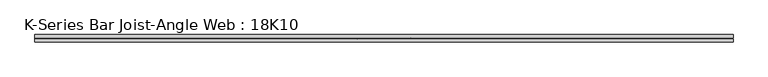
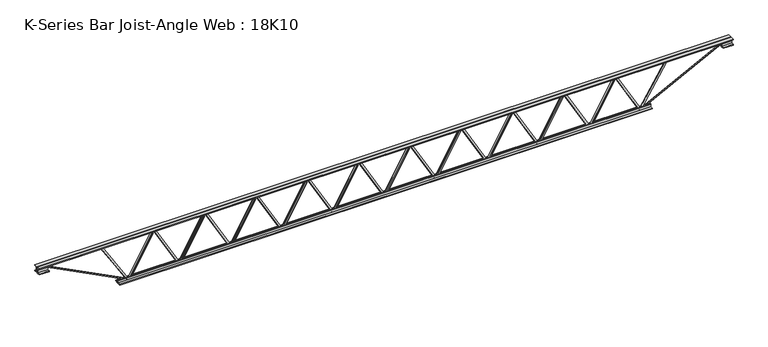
"""IFC4 building model written with IfcOpenShell, lengths in millimetres: beam geometry, K-Series Bar Joist-Angle Web : 18K10."""

from ifc_helpers import new_model, si_unit, frame, origin, place, context, project, spatial, polyline, outline, extrude, faceted_brep, source, transform, mapped, element, save


def k_series_bar_joist_angle_web_18k10_cff3a947(model_context):
    return source(origin(), model_context, "Body", "SolidModel", [
        extrude(outline(polyline([(-4.75, 4.7625), (-4.75, 0.0), (-17.45, 0.0), (-17.45, 4.7625), (-4.75, 4.7625)])), frame((2037.4126416, 0.0, -190.4), z_axis=(-0.49510883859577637, 0.0, 0.8688309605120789), x_axis=(0.0, -1.0, 0.0)), (0.0, 0.0, 1.0), 438.2900901),
        extrude(outline(polyline([(-225.325, 2069.2), (-206.275, 2069.2), (-206.275, 2068.3851254), (225.325, 1822.4351254), (225.325, 1804.2), (206.275, 1804.2), (206.275, 1811.3648746), (-225.325, 2057.3148746), (-225.325, 2069.2)])), frame((0.0, 0.0, 0.0), z_axis=(0.0, 1.0, 0.0), x_axis=(0.0, 0.0, 1.0)), (0.0, 0.0, 1.0), 4.75),
        faceted_brep([(1551.9, 0.0, -206.275), (1551.9, 0.0, -225.325), (1551.9, -4.75, -225.325), (1551.9, -4.75, -206.275), (1552.7148746, 0.0, -206.275), (1798.6648746, 0.0, 225.325), (1816.9, 0.0, 225.325), (1816.9, 0.0, 206.275), (1809.7351254, 0.0, 206.275), (1563.7851254, 0.0, -225.325), (1563.7851254, -4.75, -225.325), (1583.6873584, -4.75, -190.4), (1579.5495509, -4.75, -188.0420442), (1796.5508484, -4.75, 192.7579558), (1800.6886559, -4.75, 190.4), (1809.7351254, -4.75, 206.275), (1816.9, -4.75, 206.275), (1816.9, -4.75, 225.325), (1798.6648746, -4.75, 225.325), (1552.7148746, -4.75, -206.275), (1800.6886559, -17.4625, 190.4), (1583.6873584, -17.4625, -190.4), (1579.5495509, -17.4625, -188.0420442), (1796.5508484, -17.4625, 192.7579558)], [[[0, 1, 2, 3]], [[1, 0, 4, 5, 6, 7, 8, 9]], [[2, 1, 9, 10]], [[3, 2, 10, 11, 12, 13, 14, 15, 16, 17, 18, 19]], [[0, 3, 19, 4]], [[9, 8, 15, 14, 20, 21, 11, 10]], [[5, 4, 19, 18]], [[7, 6, 17, 16]], [[8, 7, 16, 15]], [[6, 5, 18, 17]], [[21, 22, 12, 11]], [[20, 14, 13, 23]], [[22, 21, 20, 23]], [[12, 22, 23, 13]]]),
        extrude(outline(polyline([(-4.75, 4.7625), (-4.75, 0.0), (-17.45, 0.0), (-17.45, 4.7625), (-4.75, 4.7625)])), frame((1520.1126416, 0.0, -190.4), z_axis=(-0.49510883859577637, 0.0, 0.8688309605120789), x_axis=(0.0, -1.0, 0.0)), (0.0, 0.0, 1.0), 438.2900901),
        extrude(outline(polyline([(-225.325, 1551.9), (-206.275, 1551.9), (-206.275, 1551.0851254), (225.325, 1305.1351254), (225.325, 1286.9), (206.275, 1286.9), (206.275, 1294.0648746), (-225.325, 1540.0148746), (-225.325, 1551.9)])), frame((0.0, 0.0, 0.0), z_axis=(0.0, 1.0, 0.0), x_axis=(0.0, 0.0, 1.0)), (0.0, 0.0, 1.0), 4.75),
        faceted_brep([(1034.6, 0.0, -206.275), (1034.6, 0.0, -225.325), (1034.6, -4.75, -225.325), (1034.6, -4.75, -206.275), (1035.4148746, 0.0, -206.275), (1281.3648746, 0.0, 225.325), (1299.6, 0.0, 225.325), (1299.6, 0.0, 206.275), (1292.4351254, 0.0, 206.275), (1046.4851254, 0.0, -225.325), (1046.4851254, -4.75, -225.325), (1066.3873584, -4.75, -190.4), (1062.2495509, -4.75, -188.0420442), (1279.2508484, -4.75, 192.7579558), (1283.3886559, -4.75, 190.4), (1292.4351254, -4.75, 206.275), (1299.6, -4.75, 206.275), (1299.6, -4.75, 225.325), (1281.3648746, -4.75, 225.325), (1035.4148746, -4.75, -206.275), (1283.3886559, -17.4625, 190.4), (1066.3873584, -17.4625, -190.4), (1062.2495509, -17.4625, -188.0420442), (1279.2508484, -17.4625, 192.7579558)], [[[0, 1, 2, 3]], [[1, 0, 4, 5, 6, 7, 8, 9]], [[2, 1, 9, 10]], [[3, 2, 10, 11, 12, 13, 14, 15, 16, 17, 18, 19]], [[0, 3, 19, 4]], [[9, 8, 15, 14, 20, 21, 11, 10]], [[5, 4, 19, 18]], [[7, 6, 17, 16]], [[8, 7, 16, 15]], [[6, 5, 18, 17]], [[21, 22, 12, 11]], [[20, 14, 13, 23]], [[22, 21, 20, 23]], [[12, 22, 23, 13]]]),
        extrude(outline(polyline([(-4.75, 4.7625), (-4.75, 0.0), (-17.45, 0.0), (-17.45, 4.7625), (-4.75, 4.7625)])), frame((1002.8126416, 0.0, -190.4), z_axis=(-0.49510883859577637, 0.0, 0.8688309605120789), x_axis=(0.0, -1.0, 0.0)), (0.0, 0.0, 1.0), 438.2900901),
        extrude(outline(polyline([(-225.325, 1034.6), (-206.275, 1034.6), (-206.275, 1033.7851254), (225.325, 787.8351254), (225.325, 769.6), (206.275, 769.6), (206.275, 776.7648746), (-225.325, 1022.7148746), (-225.325, 1034.6)])), frame((0.0, 0.0, 0.0), z_axis=(0.0, 1.0, 0.0), x_axis=(0.0, 0.0, 1.0)), (0.0, 0.0, 1.0), 4.75),
        faceted_brep([(517.3, 0.0, -206.275), (517.3, 0.0, -225.325), (517.3, -4.75, -225.325), (517.3, -4.75, -206.275), (518.1148746, 0.0, -206.275), (764.0648746, 0.0, 225.325), (782.3, 0.0, 225.325), (782.3, 0.0, 206.275), (775.1351254, 0.0, 206.275), (529.1851254, 0.0, -225.325), (529.1851254, -4.75, -225.325), (549.0873584, -4.75, -190.4), (544.9495509, -4.75, -188.0420442), (761.9508484, -4.75, 192.7579558), (766.0886559, -4.75, 190.4), (775.1351254, -4.75, 206.275), (782.3, -4.75, 206.275), (782.3, -4.75, 225.325), (764.0648746, -4.75, 225.325), (518.1148746, -4.75, -206.275), (766.0886559, -17.4625, 190.4), (549.0873584, -17.4625, -190.4), (544.9495509, -17.4625, -188.0420442), (761.9508484, -17.4625, 192.7579558)], [[[0, 1, 2, 3]], [[1, 0, 4, 5, 6, 7, 8, 9]], [[2, 1, 9, 10]], [[3, 2, 10, 11, 12, 13, 14, 15, 16, 17, 18, 19]], [[0, 3, 19, 4]], [[9, 8, 15, 14, 20, 21, 11, 10]], [[5, 4, 19, 18]], [[7, 6, 17, 16]], [[8, 7, 16, 15]], [[6, 5, 18, 17]], [[21, 22, 12, 11]], [[20, 14, 13, 23]], [[22, 21, 20, 23]], [[12, 22, 23, 13]]]),
        extrude(outline(polyline([(-4.75, 4.7625), (-4.75, 0.0), (-17.45, 0.0), (-17.45, 4.7625), (-4.75, 4.7625)])), frame((485.5126416, 0.0, -190.4), z_axis=(-0.49510883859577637, 0.0, 0.8688309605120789), x_axis=(0.0, -1.0, 0.0)), (0.0, 0.0, 1.0), 438.2900901),
        extrude(outline(polyline([(-225.325, 517.3), (-206.275, 517.3), (-206.275, 516.4851254), (225.325, 270.5351254), (225.325, 252.3), (206.275, 252.3), (206.275, 259.4648746), (-225.325, 505.4148746), (-225.325, 517.3)])), frame((0.0, 0.0, 0.0), z_axis=(0.0, 1.0, 0.0), x_axis=(0.0, 0.0, 1.0)), (0.0, 0.0, 1.0), 4.75),
        faceted_brep([(0.0, 0.0, -206.275), (0.0, 0.0, -225.325), (0.0, -4.75, -225.325), (0.0, -4.75, -206.275), (0.8148746, 0.0, -206.275), (246.7648746, 0.0, 225.325), (265.0, 0.0, 225.325), (265.0, 0.0, 206.275), (257.8351254, 0.0, 206.275), (11.8851254, 0.0, -225.325), (11.8851254, -4.75, -225.325), (31.7873584, -4.75, -190.4), (27.6495509, -4.75, -188.0420442), (244.6508484, -4.75, 192.7579558), (248.7886559, -4.75, 190.4), (257.8351254, -4.75, 206.275), (265.0, -4.75, 206.275), (265.0, -4.75, 225.325), (246.7648746, -4.75, 225.325), (0.8148746, -4.75, -206.275), (248.7886559, -17.4625, 190.4), (31.7873584, -17.4625, -190.4), (27.6495509, -17.4625, -188.0420442), (244.6508484, -17.4625, 192.7579558)], [[[0, 1, 2, 3]], [[1, 0, 4, 5, 6, 7, 8, 9]], [[2, 1, 9, 10]], [[3, 2, 10, 11, 12, 13, 14, 15, 16, 17, 18, 19]], [[0, 3, 19, 4]], [[9, 8, 15, 14, 20, 21, 11, 10]], [[5, 4, 19, 18]], [[7, 6, 17, 16]], [[8, 7, 16, 15]], [[6, 5, 18, 17]], [[21, 22, 12, 11]], [[20, 14, 13, 23]], [[22, 21, 20, 23]], [[12, 22, 23, 13]]]),
        extrude(outline(polyline([(-4.75, 4.7625), (-4.75, 0.0), (-17.45, 0.0), (-17.45, 4.7625), (-4.75, 4.7625)])), frame((-31.7873584, 0.0, -190.4), z_axis=(-0.49510883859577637, 0.0, 0.8688309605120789), x_axis=(0.0, -1.0, 0.0)), (0.0, 0.0, 1.0), 438.2900901),
        extrude(outline(polyline([(-225.325, 0.0), (-206.275, 0.0), (-206.275, -0.8148746), (225.325, -246.7648746), (225.325, -265.0), (206.275, -265.0), (206.275, -257.8351254), (-225.325, -11.8851254), (-225.325, 0.0)])), frame((0.0, 0.0, 0.0), z_axis=(0.0, 1.0, 0.0), x_axis=(0.0, 0.0, 1.0)), (0.0, 0.0, 1.0), 4.75),
        faceted_brep([(-517.3, 0.0, -206.275), (-517.3, 0.0, -225.325), (-517.3, -4.75, -225.325), (-517.3, -4.75, -206.275), (-516.4851254, 0.0, -206.275), (-270.5351254, 0.0, 225.325), (-252.3, 0.0, 225.325), (-252.3, 0.0, 206.275), (-259.4648746, 0.0, 206.275), (-505.4148746, 0.0, -225.325), (-505.4148746, -4.75, -225.325), (-485.5126416, -4.75, -190.4), (-489.6504491, -4.75, -188.0420442), (-272.6491516, -4.75, 192.7579558), (-268.5113441, -4.75, 190.4), (-259.4648746, -4.75, 206.275), (-252.3, -4.75, 206.275), (-252.3, -4.75, 225.325), (-270.5351254, -4.75, 225.325), (-516.4851254, -4.75, -206.275), (-268.5113441, -17.4625, 190.4), (-485.5126416, -17.4625, -190.4), (-489.6504491, -17.4625, -188.0420442), (-272.6491516, -17.4625, 192.7579558)], [[[0, 1, 2, 3]], [[1, 0, 4, 5, 6, 7, 8, 9]], [[2, 1, 9, 10]], [[3, 2, 10, 11, 12, 13, 14, 15, 16, 17, 18, 19]], [[0, 3, 19, 4]], [[9, 8, 15, 14, 20, 21, 11, 10]], [[5, 4, 19, 18]], [[7, 6, 17, 16]], [[8, 7, 16, 15]], [[6, 5, 18, 17]], [[21, 22, 12, 11]], [[20, 14, 13, 23]], [[22, 21, 20, 23]], [[12, 22, 23, 13]]]),
        extrude(outline(polyline([(-4.75, 4.7625), (-4.75, 0.0), (-17.45, 0.0), (-17.45, 4.7625), (-4.75, 4.7625)])), frame((-549.0873584, 0.0, -190.4), z_axis=(-0.49510883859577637, 0.0, 0.8688309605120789), x_axis=(0.0, -1.0, 0.0)), (0.0, 0.0, 1.0), 438.2900901),
        extrude(outline(polyline([(-225.325, -517.3), (-206.275, -517.3), (-206.275, -518.1148746), (225.325, -764.0648746), (225.325, -782.3), (206.275, -782.3), (206.275, -775.1351254), (-225.325, -529.1851254), (-225.325, -517.3)])), frame((0.0, 0.0, 0.0), z_axis=(0.0, 1.0, 0.0), x_axis=(0.0, 0.0, 1.0)), (0.0, 0.0, 1.0), 4.75),
        faceted_brep([(-1034.6, 0.0, -206.275), (-1034.6, 0.0, -225.325), (-1034.6, -4.75, -225.325), (-1034.6, -4.75, -206.275), (-1033.7851254, 0.0, -206.275), (-787.8351254, 0.0, 225.325), (-769.6, 0.0, 225.325), (-769.6, 0.0, 206.275), (-776.7648746, 0.0, 206.275), (-1022.7148746, 0.0, -225.325), (-1022.7148746, -4.75, -225.325), (-1002.8126416, -4.75, -190.4), (-1006.9504491, -4.75, -188.0420442), (-789.9491516, -4.75, 192.7579558), (-785.8113441, -4.75, 190.4), (-776.7648746, -4.75, 206.275), (-769.6, -4.75, 206.275), (-769.6, -4.75, 225.325), (-787.8351254, -4.75, 225.325), (-1033.7851254, -4.75, -206.275), (-785.8113441, -17.4625, 190.4), (-1002.8126416, -17.4625, -190.4), (-1006.9504491, -17.4625, -188.0420442), (-789.9491516, -17.4625, 192.7579558)], [[[0, 1, 2, 3]], [[1, 0, 4, 5, 6, 7, 8, 9]], [[2, 1, 9, 10]], [[3, 2, 10, 11, 12, 13, 14, 15, 16, 17, 18, 19]], [[0, 3, 19, 4]], [[9, 8, 15, 14, 20, 21, 11, 10]], [[5, 4, 19, 18]], [[7, 6, 17, 16]], [[8, 7, 16, 15]], [[6, 5, 18, 17]], [[21, 22, 12, 11]], [[20, 14, 13, 23]], [[22, 21, 20, 23]], [[12, 22, 23, 13]]]),
        extrude(outline(polyline([(-4.75, 4.7625), (-4.75, 0.0), (-17.45, 0.0), (-17.45, 4.7625), (-4.75, 4.7625)])), frame((-1066.3873584, 0.0, -190.4), z_axis=(-0.49510883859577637, 0.0, 0.8688309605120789), x_axis=(0.0, -1.0, 0.0)), (0.0, 0.0, 1.0), 438.2900901),
        extrude(outline(polyline([(-225.325, -1034.6), (-206.275, -1034.6), (-206.275, -1035.4148746), (225.325, -1281.3648746), (225.325, -1299.6), (206.275, -1299.6), (206.275, -1292.4351254), (-225.325, -1046.4851254), (-225.325, -1034.6)])), frame((0.0, 0.0, 0.0), z_axis=(0.0, 1.0, 0.0), x_axis=(0.0, 0.0, 1.0)), (0.0, 0.0, 1.0), 4.75),
        faceted_brep([(-1551.9, 0.0, -206.275), (-1551.9, 0.0, -225.325), (-1551.9, -4.75, -225.325), (-1551.9, -4.75, -206.275), (-1551.0851254, 0.0, -206.275), (-1305.1351254, 0.0, 225.325), (-1286.9, 0.0, 225.325), (-1286.9, 0.0, 206.275), (-1294.0648746, 0.0, 206.275), (-1540.0148746, 0.0, -225.325), (-1540.0148746, -4.75, -225.325), (-1520.1126416, -4.75, -190.4), (-1524.2504491, -4.75, -188.0420442), (-1307.2491516, -4.75, 192.7579558), (-1303.1113441, -4.75, 190.4), (-1294.0648746, -4.75, 206.275), (-1286.9, -4.75, 206.275), (-1286.9, -4.75, 225.325), (-1305.1351254, -4.75, 225.325), (-1551.0851254, -4.75, -206.275), (-1303.1113441, -17.4625, 190.4), (-1520.1126416, -17.4625, -190.4), (-1524.2504491, -17.4625, -188.0420442), (-1307.2491516, -17.4625, 192.7579558)], [[[0, 1, 2, 3]], [[1, 0, 4, 5, 6, 7, 8, 9]], [[2, 1, 9, 10]], [[3, 2, 10, 11, 12, 13, 14, 15, 16, 17, 18, 19]], [[0, 3, 19, 4]], [[9, 8, 15, 14, 20, 21, 11, 10]], [[5, 4, 19, 18]], [[7, 6, 17, 16]], [[8, 7, 16, 15]], [[6, 5, 18, 17]], [[21, 22, 12, 11]], [[20, 14, 13, 23]], [[22, 21, 20, 23]], [[12, 22, 23, 13]]]),
        extrude(outline(polyline([(-4.75, 4.7625), (-4.75, 0.0), (-17.45, 0.0), (-17.45, 4.7625), (-4.75, 4.7625)])), frame((-1583.6873584, 0.0, -190.4), z_axis=(-0.49510883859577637, 0.0, 0.8688309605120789), x_axis=(0.0, -1.0, 0.0)), (0.0, 0.0, 1.0), 438.2900901),
        extrude(outline(polyline([(-225.325, -1551.9), (-206.275, -1551.9), (-206.275, -1552.7148746), (225.325, -1798.6648746), (225.325, -1816.9), (206.275, -1816.9), (206.275, -1809.7351254), (-225.325, -1563.7851254), (-225.325, -1551.9)])), frame((0.0, 0.0, 0.0), z_axis=(0.0, 1.0, 0.0), x_axis=(0.0, 0.0, 1.0)), (0.0, 0.0, 1.0), 4.75),
        faceted_brep([(-2069.2, 0.0, -206.275), (-2069.2, 0.0, -225.325), (-2069.2, -4.75, -225.325), (-2069.2, -4.75, -206.275), (-2068.3851254, 0.0, -206.275), (-1822.4351254, 0.0, 225.325), (-1804.2, 0.0, 225.325), (-1804.2, 0.0, 206.275), (-1811.3648746, 0.0, 206.275), (-2057.3148746, 0.0, -225.325), (-2057.3148746, -4.75, -225.325), (-2037.4126416, -4.75, -190.4), (-2041.5504491, -4.75, -188.0420442), (-1824.5491516, -4.75, 192.7579558), (-1820.4113441, -4.75, 190.4), (-1811.3648746, -4.75, 206.275), (-1804.2, -4.75, 206.275), (-1804.2, -4.75, 225.325), (-1822.4351254, -4.75, 225.325), (-2068.3851254, -4.75, -206.275), (-1820.4113441, -17.4625, 190.4), (-2037.4126416, -17.4625, -190.4), (-2041.5504491, -17.4625, -188.0420442), (-1824.5491516, -17.4625, 192.7579558)], [[[0, 1, 2, 3]], [[1, 0, 4, 5, 6, 7, 8, 9]], [[2, 1, 9, 10]], [[3, 2, 10, 11, 12, 13, 14, 15, 16, 17, 18, 19]], [[0, 3, 19, 4]], [[9, 8, 15, 14, 20, 21, 11, 10]], [[5, 4, 19, 18]], [[7, 6, 17, 16]], [[8, 7, 16, 15]], [[6, 5, 18, 17]], [[21, 22, 12, 11]], [[20, 14, 13, 23]], [[22, 21, 20, 23]], [[12, 22, 23, 13]]]),
        extrude(outline(polyline([(-4.75, 4.7625), (-4.75, 0.0), (-17.45, 0.0), (-17.45, 4.7625), (-4.75, 4.7625)])), frame((2554.7126416, 0.0, -190.4), z_axis=(-0.49510883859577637, 0.0, 0.8688309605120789), x_axis=(0.0, -1.0, 0.0)), (0.0, 0.0, 1.0), 438.2900901),
        extrude(outline(polyline([(-225.325, 2586.5), (-206.275, 2586.5), (-206.275, 2585.6851254), (225.325, 2339.7351254), (225.325, 2321.5), (206.275, 2321.5), (206.275, 2328.6648746), (-225.325, 2574.6148746), (-225.325, 2586.5)])), frame((0.0, 0.0, 0.0), z_axis=(0.0, 1.0, 0.0), x_axis=(0.0, 0.0, 1.0)), (0.0, 0.0, 1.0), 4.75),
        faceted_brep([(2069.2, 0.0, -206.275), (2069.2, 0.0, -225.325), (2069.2, -4.75, -225.325), (2069.2, -4.75, -206.275), (2070.0148746, 0.0, -206.275), (2315.9648746, 0.0, 225.325), (2334.2, 0.0, 225.325), (2334.2, 0.0, 206.275), (2327.0351254, 0.0, 206.275), (2081.0851254, 0.0, -225.325), (2081.0851254, -4.75, -225.325), (2100.9873584, -4.75, -190.4), (2096.8495509, -4.75, -188.0420442), (2313.8508484, -4.75, 192.7579558), (2317.9886559, -4.75, 190.4), (2327.0351254, -4.75, 206.275), (2334.2, -4.75, 206.275), (2334.2, -4.75, 225.325), (2315.9648746, -4.75, 225.325), (2070.0148746, -4.75, -206.275), (2317.9886559, -17.4625, 190.4), (2100.9873584, -17.4625, -190.4), (2096.8495509, -17.4625, -188.0420442), (2313.8508484, -17.4625, 192.7579558)], [[[0, 1, 2, 3]], [[1, 0, 4, 5, 6, 7, 8, 9]], [[2, 1, 9, 10]], [[3, 2, 10, 11, 12, 13, 14, 15, 16, 17, 18, 19]], [[0, 3, 19, 4]], [[9, 8, 15, 14, 20, 21, 11, 10]], [[5, 4, 19, 18]], [[7, 6, 17, 16]], [[8, 7, 16, 15]], [[6, 5, 18, 17]], [[21, 22, 12, 11]], [[20, 14, 13, 23]], [[22, 21, 20, 23]], [[12, 22, 23, 13]]]),
        extrude(outline(polyline([(-4.75, 4.7625), (-4.75, 0.0), (-17.45, 0.0), (-17.45, 4.7625), (-4.75, 4.7625)])), frame((-2100.9873584, 0.0, -190.4), z_axis=(-0.49510883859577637, 0.0, 0.8688309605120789), x_axis=(0.0, -1.0, 0.0)), (0.0, 0.0, 1.0), 438.2900901),
        extrude(outline(polyline([(-225.325, -2069.2), (-206.275, -2069.2), (-206.275, -2070.0148746), (225.325, -2315.9648746), (225.325, -2334.2), (206.275, -2334.2), (206.275, -2327.0351254), (-225.325, -2081.0851254), (-225.325, -2069.2)])), frame((0.0, 0.0, 0.0), z_axis=(0.0, 1.0, 0.0), x_axis=(0.0, 0.0, 1.0)), (0.0, 0.0, 1.0), 4.75),
        faceted_brep([(-2586.5, 0.0, -206.275), (-2586.5, 0.0, -225.325), (-2586.5, -4.75, -225.325), (-2586.5, -4.75, -206.275), (-2585.6851254, 0.0, -206.275), (-2339.7351254, 0.0, 225.325), (-2321.5, 0.0, 225.325), (-2321.5, 0.0, 206.275), (-2328.6648746, 0.0, 206.275), (-2574.6148746, 0.0, -225.325), (-2574.6148746, -4.75, -225.325), (-2554.7126416, -4.75, -190.4), (-2558.8504491, -4.75, -188.0420442), (-2341.8491516, -4.75, 192.7579558), (-2337.7113441, -4.75, 190.4), (-2328.6648746, -4.75, 206.275), (-2321.5, -4.75, 206.275), (-2321.5, -4.75, 225.325), (-2339.7351254, -4.75, 225.325), (-2585.6851254, -4.75, -206.275), (-2337.7113441, -17.4625, 190.4), (-2554.7126416, -17.4625, -190.4), (-2558.8504491, -17.4625, -188.0420442), (-2341.8491516, -17.4625, 192.7579558)], [[[0, 1, 2, 3]], [[1, 0, 4, 5, 6, 7, 8, 9]], [[2, 1, 9, 10]], [[3, 2, 10, 11, 12, 13, 14, 15, 16, 17, 18, 19]], [[0, 3, 19, 4]], [[9, 8, 15, 14, 20, 21, 11, 10]], [[5, 4, 19, 18]], [[7, 6, 17, 16]], [[8, 7, 16, 15]], [[6, 5, 18, 17]], [[21, 22, 12, 11]], [[20, 14, 13, 23]], [[22, 21, 20, 23]], [[12, 22, 23, 13]]]),
        extrude(outline(polyline([(4.75, 228.5), (36.75, 228.5), (36.75, 222.0), (11.25, 222.0), (11.25, 196.5), (4.75, 196.5), (4.75, 228.5)])), frame((-3500.5, 0.0, 0.0), z_axis=(1.0, 0.0, 0.0), x_axis=(0.0, 1.0, 0.0)), (0.0, 0.0, 1.0), 7001.0),
        extrude(outline(polyline([(-4.75, 228.5), (-4.75, 196.5), (-11.25, 196.5), (-11.25, 222.0), (-36.75, 222.0), (-36.75, 228.5), (-4.75, 228.5)])), frame((-3500.5, 0.0, 0.0), z_axis=(1.0, 0.0, 0.0), x_axis=(0.0, 1.0, 0.0)), (0.0, 0.0, 1.0), 7001.0),
        extrude(outline(polyline([(4.75, -228.5), (4.75, -196.5), (11.25, -196.5), (11.25, -222.0), (36.75, -222.0), (36.75, -228.5), (4.75, -228.5)])), frame((-2686.5, 0.0, 0.0), z_axis=(1.0, 0.0, 0.0), x_axis=(0.0, 1.0, 0.0)), (0.0, 0.0, 1.0), 5373.0),
        extrude(outline(polyline([(-4.75, -228.5), (-36.75, -228.5), (-36.75, -222.0), (-11.25, -222.0), (-11.25, -196.5), (-4.75, -196.5), (-4.75, -228.5)])), frame((-2686.5, 0.0, 0.0), z_axis=(1.0, 0.0, 0.0), x_axis=(0.0, 1.0, 0.0)), (0.0, 0.0, 1.0), 5373.0),
        extrude(outline(polyline([(4.75, 165.0), (4.75, 196.5), (11.25, 196.5), (11.25, 171.5), (36.75, 171.5), (36.75, 165.0), (4.75, 165.0)])), frame((3400.5, 0.0, 0.0), z_axis=(1.0, 0.0, 0.0), x_axis=(0.0, 1.0, 0.0)), (0.0, 0.0, 1.0), 100.0),
        extrude(outline(polyline([(-4.75, 165.0), (-36.75, 165.0), (-36.75, 171.5), (-11.25, 171.5), (-11.25, 196.5), (-4.75, 196.5), (-4.75, 165.0)])), frame((3400.5, 0.0, 0.0), z_axis=(1.0, 0.0, 0.0), x_axis=(0.0, 1.0, 0.0)), (0.0, 0.0, 1.0), 100.0),
        extrude(outline(polyline([(-4.75, 165.0), (-36.75, 165.0), (-36.75, 171.5), (-11.25, 171.5), (-11.25, 196.5), (-4.75, 196.5), (-4.75, 165.0)])), frame((-3500.5, 0.0, 0.0), z_axis=(1.0, 0.0, 0.0), x_axis=(0.0, 1.0, 0.0)), (0.0, 0.0, 1.0), 100.0),
        extrude(outline(polyline([(36.75, 165.0), (4.75, 165.0), (4.75, 196.5), (11.25, 196.5), (11.25, 171.5), (36.75, 171.5), (36.75, 165.0)])), frame((-3500.5, 0.0, 0.0), z_axis=(1.0, 0.0, 0.0), x_axis=(0.0, 1.0, 0.0)), (0.0, 0.0, 1.0), 100.0),
        extrude(outline(polyline([(219.4566712, -2865.1071429), (200.4066712, -2865.1071429), (200.4066712, -2857.4574502), (-226.8935589, -2594.1993795), (-216.9011326, -2577.9804425), (219.4566712, -2846.8188505), (219.4566712, -2865.1071429)])), frame((0.0, 0.0, 0.0), z_axis=(0.0, 1.0, 0.0), x_axis=(0.0, 0.0, 1.0)), (0.0, 0.0, 1.0), 4.7625),
        extrude(outline(polyline([(-4.7625, -10.5646146), (-4.7625, 8.4853854), (0.0, 8.4853854), (0.0, -10.5646146), (-4.7625, -10.5646146)])), frame((2586.5, 0.0, -222.15), z_axis=(0.5255988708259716, 0.0, 0.8507325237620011), x_axis=(0.0, -1.0, 0.0)), (0.0, 0.0, 1.0), 492.105319),
        extrude(outline(polyline([(-226.3740718, -2588.672491), (-217.9259282, -2584.327509), (201.25, -3399.3500948), (201.25, -3500.5), (191.75, -3500.5), (191.75, -3401.6499052), (-226.3740718, -2588.672491)])), frame((0.0, -4.75, 0.0), z_axis=(0.0, 1.0, 0.0), x_axis=(0.0, 0.0, 1.0)), (0.0, 0.0, 1.0), 9.5),
        extrude(outline(polyline([(0.0, -9.5), (0.0, 0.0), (915.3490168, 0.0), (915.3490168, -9.5), (0.0, -9.5)])), frame((3402.672491, -4.75, 192.2759282), z_axis=(-0.4573665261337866, 0.0, 0.889278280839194), x_axis=(-0.889278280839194, 0.0, -0.4573665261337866)), (0.0, 0.0, 1.0), 9.5),
    ])


if __name__ == "__main__":
    model = new_model("IFC4")
    model_context = context("Model", 3, world=origin())
    ifc_project = project(units=[si_unit("LENGTHUNIT", "METRE", prefix="MILLI")], contexts=[model_context])
    site = spatial("IfcSite", under=ifc_project)
    building = spatial("IfcBuilding", under=site)
    placement = place(None, origin())
    k_series_bar_joist_angle_web_18k10_shape = k_series_bar_joist_angle_web_18k10_cff3a947(model_context)
    element("IfcBeam", 1, ObjectType="K-Series Bar Joist-Angle Web : 18K10", at=placement, inside=building, context=model_context, shape_type="MappedRepresentation", body=[
        mapped(k_series_bar_joist_angle_web_18k10_shape, transform((0.0, 0.0, 0.0), x_axis=(1.0, 0.0, 0.0), y_axis=(0.0, 1.0, 0.0), z_axis=(0.0, 0.0, 1.0))),
    ])
    save(model, "model.ifc")
